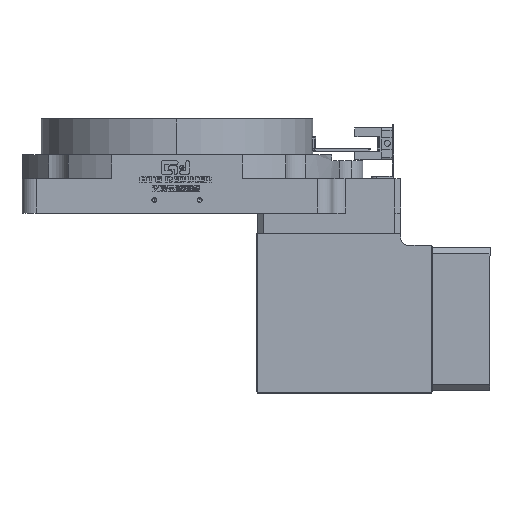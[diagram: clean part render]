
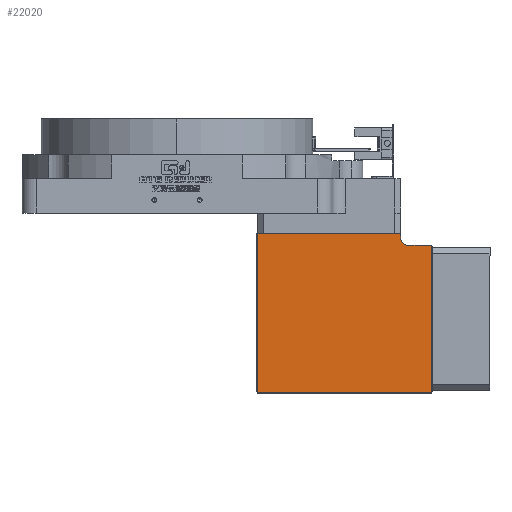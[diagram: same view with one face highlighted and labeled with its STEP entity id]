
A CAD part, left-side view. The second image highlights one B-rep face of the part: STEP entity #22020.
In plain terms, the highlighted planar face has unit normal (-1, 0, 0).
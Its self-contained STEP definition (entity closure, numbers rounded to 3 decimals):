
#486 = CARTESIAN_POINT ( 'NONE',  ( -39.411, -24.843, 19.207 ) ) ;
#924 = LINE ( 'NONE', #48966, #73201 ) ;
#1531 = VECTOR ( 'NONE', #73778, 1000. ) ;
#5078 = CARTESIAN_POINT ( 'NONE',  ( -39.411, -98.343, -6.75 ) ) ;
#5763 = CARTESIAN_POINT ( 'NONE',  ( -39.411, -111.843, -11.25 ) ) ;
#7005 = LINE ( 'NONE', #47412, #36715 ) ;
#7696 = DIRECTION ( 'NONE',  ( 0., 0., -1. ) ) ;
#7748 = VERTEX_POINT ( 'NONE', #5078 ) ;
#8903 = VERTEX_POINT ( 'NONE', #17438 ) ;
#9911 = CARTESIAN_POINT ( 'NONE',  ( -39.411, -38.343, -6.25 ) ) ;
#10879 = CARTESIAN_POINT ( 'NONE',  ( -39.411, -111.343, -72.95 ) ) ;
#12033 = ORIENTED_EDGE ( 'NONE', *, *, #33817, .T. ) ;
#16573 = EDGE_CURVE ( 'NONE', #8903, #73285, #52242, .T. ) ;
#17438 = CARTESIAN_POINT ( 'NONE',  ( -39.411, -101.343, -11.25 ) ) ;
#18661 = AXIS2_PLACEMENT_3D ( 'NONE', #486, #35536, #81887 ) ;
#18966 = VERTEX_POINT ( 'NONE', #9911 ) ;
#19201 = ORIENTED_EDGE ( 'NONE', *, *, #56955, .T. ) ;
#21527 = DIRECTION ( 'NONE',  ( 0., 0., 1. ) ) ;
#21618 = CARTESIAN_POINT ( 'NONE',  ( -39.411, -97.843, -6.25 ) ) ;
#22020 = ADVANCED_FACE ( 'NONE', ( #33346 ), #40051, .F. ) ;
#26479 = VECTOR ( 'NONE', #37720, 1000. ) ;
#27610 = VERTEX_POINT ( 'NONE', #32228 ) ;
#30928 = VERTEX_POINT ( 'NONE', #21618 ) ;
#32075 = EDGE_CURVE ( 'NONE', #50654, #27610, #55306, .T. ) ;
#32228 = CARTESIAN_POINT ( 'NONE',  ( -39.411, -111.343, -11.25 ) ) ;
#32736 = ORIENTED_EDGE ( 'NONE', *, *, #32075, .T. ) ;
#33240 = VERTEX_POINT ( 'NONE', #71346 ) ;
#33346 = FACE_OUTER_BOUND ( 'NONE', #58066, .T. ) ;
#33817 = EDGE_CURVE ( 'NONE', #30928, #18966, #7005, .T. ) ;
#35379 = ORIENTED_EDGE ( 'NONE', *, *, #58295, .T. ) ;
#35536 = DIRECTION ( 'NONE',  ( 1., 0., 0. ) ) ;
#36715 = VECTOR ( 'NONE', #55559, 1000. ) ;
#37602 = CARTESIAN_POINT ( 'NONE',  ( -39.411, -111.343, -72.95 ) ) ;
#37720 = DIRECTION ( 'NONE',  ( 0., 0.707, 0.707 ) ) ;
#39056 = VECTOR ( 'NONE', #21527, 1000. ) ;
#40051 = PLANE ( 'NONE',  #18661 ) ;
#41189 = DIRECTION ( 'NONE',  ( 0., 1., 0. ) ) ;
#45005 = AXIS2_PLACEMENT_3D ( 'NONE', #68204, #75003, #55212 ) ;
#47412 = CARTESIAN_POINT ( 'NONE',  ( -39.411, -103.343, -6.25 ) ) ;
#48500 = ORIENTED_EDGE ( 'NONE', *, *, #81318, .T. ) ;
#48966 = CARTESIAN_POINT ( 'NONE',  ( -39.411, -38.343, 19.207 ) ) ;
#50654 = VERTEX_POINT ( 'NONE', #37602 ) ;
#51200 = CARTESIAN_POINT ( 'NONE',  ( -39.411, -97.843, -6.25 ) ) ;
#51410 = VECTOR ( 'NONE', #41189, 1000. ) ;
#52242 = CIRCLE ( 'NONE', #45005, 3. ) ;
#53740 = CARTESIAN_POINT ( 'NONE',  ( -39.411, -98.343, -8.25 ) ) ;
#55212 = DIRECTION ( 'NONE',  ( 0., 0., 1. ) ) ;
#55306 = LINE ( 'NONE', #82721, #39056 ) ;
#55559 = DIRECTION ( 'NONE',  ( 0., 1., 0. ) ) ;
#55595 = DIRECTION ( 'NONE',  ( 0., 0., 1. ) ) ;
#56955 = EDGE_CURVE ( 'NONE', #18966, #33240, #924, .T. ) ;
#58066 = EDGE_LOOP ( 'NONE', ( #72189, #32736, #48500, #58287, #35379, #67935, #12033, #19201 ) ) ;
#58287 = ORIENTED_EDGE ( 'NONE', *, *, #16573, .T. ) ;
#58295 = EDGE_CURVE ( 'NONE', #73285, #7748, #75381, .T. ) ;
#60819 = EDGE_CURVE ( 'NONE', #7748, #30928, #79137, .T. ) ;
#67006 = LINE ( 'NONE', #10879, #1531 ) ;
#67290 = LINE ( 'NONE', #5763, #51410 ) ;
#67935 = ORIENTED_EDGE ( 'NONE', *, *, #60819, .T. ) ;
#68204 = CARTESIAN_POINT ( 'NONE',  ( -39.411, -101.343, -8.25 ) ) ;
#71346 = CARTESIAN_POINT ( 'NONE',  ( -39.411, -38.343, -72.95 ) ) ;
#72189 = ORIENTED_EDGE ( 'NONE', *, *, #83680, .T. ) ;
#73201 = VECTOR ( 'NONE', #7696, 1000. ) ;
#73285 = VERTEX_POINT ( 'NONE', #53740 ) ;
#73778 = DIRECTION ( 'NONE',  ( 0., -1., 0. ) ) ;
#74941 = CARTESIAN_POINT ( 'NONE',  ( -39.411, -98.343, -1.25 ) ) ;
#75003 = DIRECTION ( 'NONE',  ( 1., 0., 0. ) ) ;
#75381 = LINE ( 'NONE', #74941, #86508 ) ;
#79137 = LINE ( 'NONE', #51200, #26479 ) ;
#81318 = EDGE_CURVE ( 'NONE', #27610, #8903, #67290, .T. ) ;
#81887 = DIRECTION ( 'NONE',  ( 0., 1., 0. ) ) ;
#82721 = CARTESIAN_POINT ( 'NONE',  ( -39.411, -111.343, -11.75 ) ) ;
#83680 = EDGE_CURVE ( 'NONE', #33240, #50654, #67006, .T. ) ;
#86508 = VECTOR ( 'NONE', #55595, 1000. ) ;
